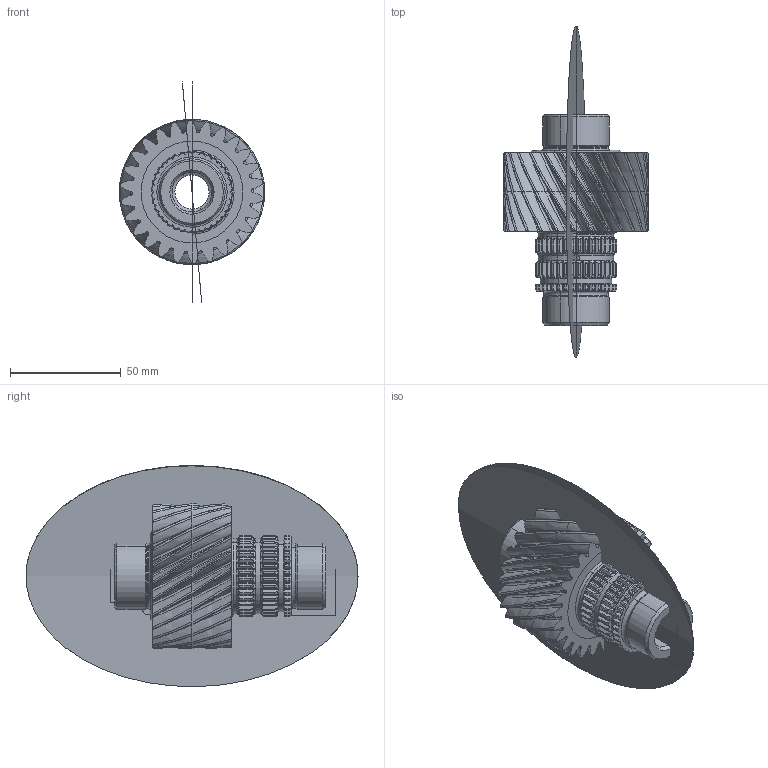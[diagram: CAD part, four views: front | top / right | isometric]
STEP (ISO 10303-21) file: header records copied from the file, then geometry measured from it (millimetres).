
FILE_DESCRIPTION(/* description */ ('AP242 STEP file','CAx-IF Rec.Pracs.---Representation and Presentation of Product Manufacturing Information (PMI)---4.0.9---2020-12-09','CAx-IF Rec.Pracs.---User Defined Attributes---1.8---2021-02-18','CAx-IF Rec.Pracs.---3D Tessellated Geometry---1.0---2015-12-17','CAx-IF Rec.Pracs.---Model Styling and Organization---1.6---2018-08-17'),/* implementation_level */ '2;1');
FILE_NAME(/* name */ 'JAMA10000.stp',/* time_stamp */ '2024-03-03T14:03:50+09:00',/* author */ (''),/* organization */ (''),/* preprocessor_version */ 'ST-DEVELOPER v20',/* originating_system */ 'Elysium STEP Translator v10.0.0.7',/* authorisation */ '');
FILE_SCHEMA (('AP242_MANAGED_MODEL_BASED_3D_ENGINEERING_MIM_LF { 1 0 10303 442 4 1 4 }'));
Products named in the file (1): JAMA10000
Bounding box: 65.7 x 150.03 x 99.98 mm (x, y, z)
Volume: 126729.7 mm3; surface area: 81110.9 mm2
Topology: 1 solids, 13 shells, 1155 faces, 4475 edges, 4480 vertices
Faces by surface type: cylinder 478, cone 320, bspline 314, torus 22, plane 21
Entity records: 123321 total; most frequent: CARTESIAN_POINT 81745, STYLED_ITEM 6805, ORIENTED_EDGE 6640, EDGE_CURVE 3338, B_SPLINE_CURVE_WITH_KNOTS 2795, AXIS2_PLACEMENT_3D 2207, VERTEX_POINT 2202, COORDINATES_LIST 1511
